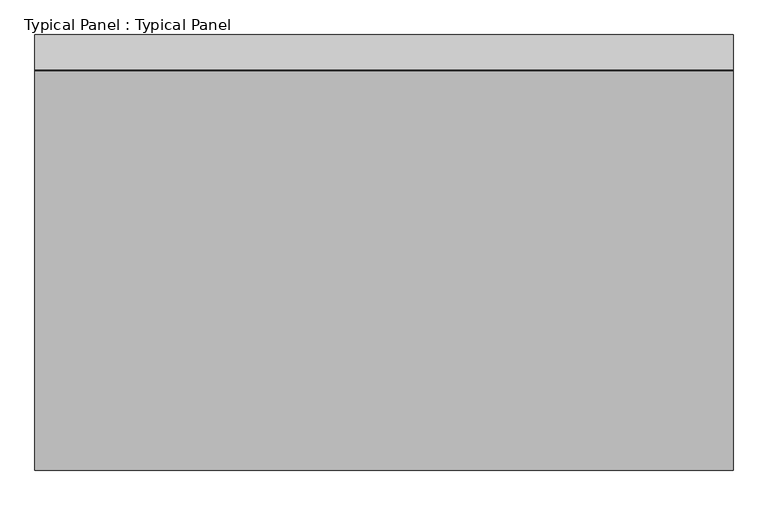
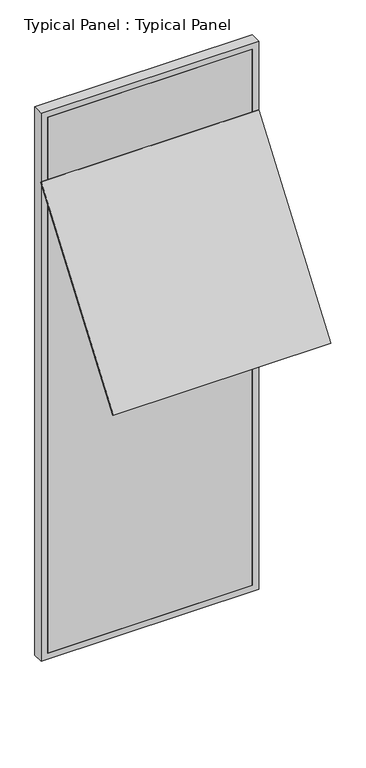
"""IFC4 building model written with IfcOpenShell, lengths in millimetres: plate geometry, Typical Panel : Typical Panel."""

from ifc_helpers import new_model, si_unit, frame, origin, place, context, project, spatial, polyline, outline, extrude, source, transform, mapped, element, save


def typical_panel_typical_panel_b4f8cd0d(model_context):
    return source(origin(), model_context, "Body", "SweptSolid", [
        extrude(outline(polyline([(0.0, -10.0), (0.0, 0.0), (1500.0, 0.0), (1500.0, -10.0), (0.0, -10.0)])), frame((750.0, -863.1664683, 2318.8351882), z_axis=(0.0, 0.5877852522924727, 0.8090169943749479), x_axis=(-1.0, 0.0, 0.0)), (0.0, 0.0, 1.0), 1460.0),
        extrude(outline(polyline([(0.0, -750.0), (0.0, 750.0), (4000.0, 750.0), (4000.0, -750.0), (0.0, -750.0)]), holes=[polyline([(45.0, 705.0), (45.0, -705.0), (3955.0, -705.0), (3955.0, 705.0), (45.0, 705.0)])]), frame((0.0, -1.5797986, 0.0), z_axis=(0.0, 1.0, 0.0), x_axis=(0.0, 0.0, 1.0)), (0.0, 0.0, 1.0), 75.0),
        extrude(outline(polyline([(705.0, -1.5797986), (-705.0, -1.5797986), (-705.0, 13.4202014), (705.0, 13.4202014), (705.0, -1.5797986)])), frame((0.0, 0.0, 45.0), z_axis=(0.0, 0.0, 1.0), x_axis=(1.0, 0.0, 0.0)), (0.0, 0.0, 1.0), 3910.0),
    ])


if __name__ == "__main__":
    model = new_model("IFC4")
    model_context = context("Model", 3, world=origin())
    ifc_project = project(units=[si_unit("LENGTHUNIT", "METRE", prefix="MILLI")], contexts=[model_context])
    site = spatial("IfcSite", under=ifc_project)
    building = spatial("IfcBuilding", under=site)
    placement = place(None, origin())
    typical_panel_typical_panel_shape = typical_panel_typical_panel_b4f8cd0d(model_context)
    element("IfcPlate", 1, ObjectType="Typical Panel : Typical Panel", at=placement, inside=building, context=model_context, shape_type="MappedRepresentation", body=[
        mapped(typical_panel_typical_panel_shape, transform((0.0, 0.0, 0.0), x_axis=(1.0, 0.0, 0.0), y_axis=(0.0, 1.0, 0.0), z_axis=(0.0, 0.0, 1.0))),
    ])
    save(model, "model.ifc")
